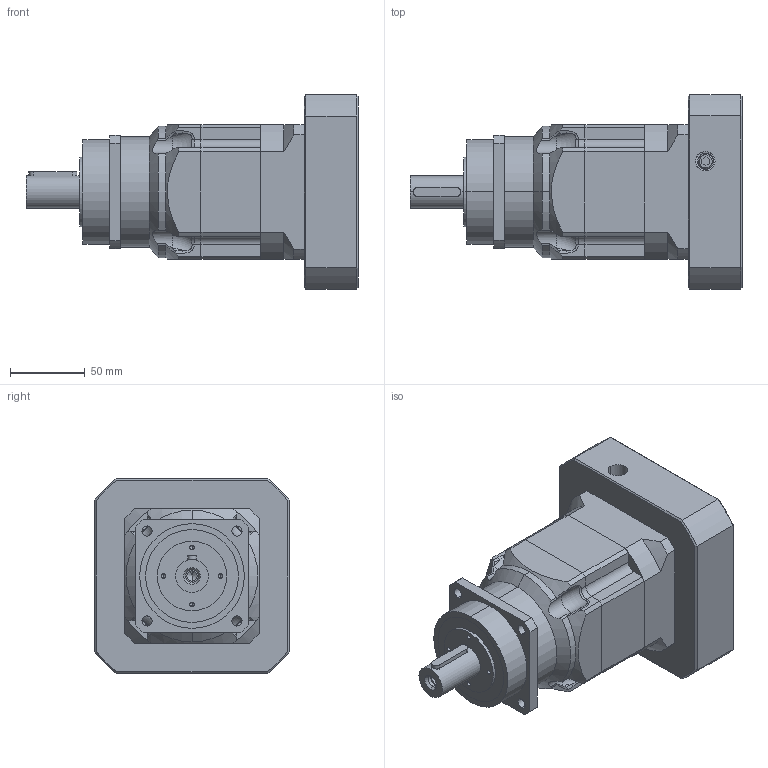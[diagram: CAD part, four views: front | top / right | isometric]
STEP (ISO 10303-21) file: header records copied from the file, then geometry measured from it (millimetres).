
FILE_DESCRIPTION (( 'STEP AP203' ), '1' );
FILE_NAME ('5A3YD.110130.143.STEP', '2019-04-22T02:57:58', ( '' ), ( '' ), 'SwSTEP 2.0', 'SolidWorks 2010', '' );
FILE_SCHEMA (( 'CONFIG_CONTROL_DESIGN' ));
Length unit declared in the file: millimetre
Products named in the file (8): 5A3YD.110130.143; 螺絲-M5x20L_M5x20L; PEL90連接板234BC35312_3.成品; PEL90-後蓋-2141C30200_3.成品; PUL75+100T-加長本體_PUL75雙段-24; 螺絲-M6x16L_M6*16L; 雙圓鍵-90-115_6x6x32; PUL75本體_PUL75雙段
Assembly tree (10 placements, depth 2):
  5A3YD.110130.143
    雙圓鍵-90-115_6x6x32
    螺絲-M6x16L_M6*16L
    螺絲-M5x20L_M5x20L  x4
    PEL90連接板234BC35312_3.成品
    PEL90-後蓋-2141C30200_3.成品
    PUL75+100T-加長本體_PUL75雙段-24
    PUL75本體_PUL75雙段
Bounding box: 222 x 130 x 130 mm (x, y, z)
Volume: 1359062.8 mm3; surface area: 182182.6 mm2
Topology: 10 solids, 10 shells, 515 faces, 1256 edges, 790 vertices
Faces by surface type: cylinder 215, plane 187, cone 79, bspline 28, torus 6
Entity records: 16338 total; most frequent: CARTESIAN_POINT 4571, DIRECTION 2270, ORIENTED_EDGE 2228, EDGE_CURVE 1114, AXIS2_PLACEMENT_3D 891, VERTEX_POINT 718, EDGE_LOOP 548, VECTOR 488
